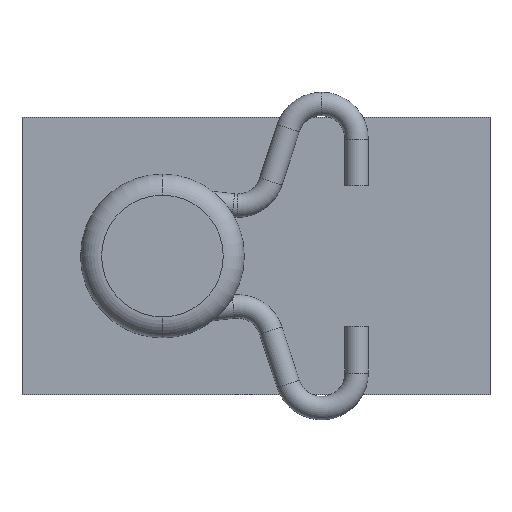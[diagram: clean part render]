
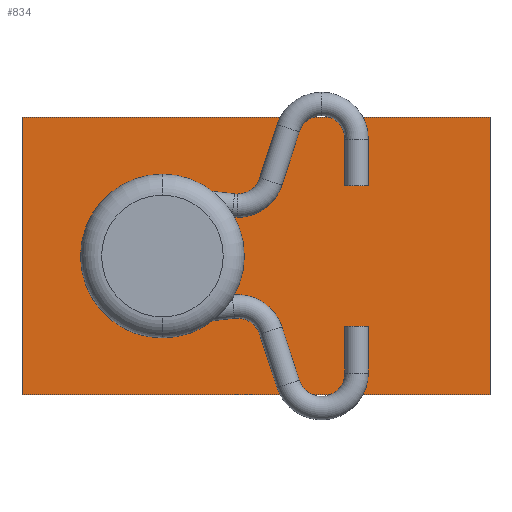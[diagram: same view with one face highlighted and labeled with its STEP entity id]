
A CAD part, front view. The second image highlights one B-rep face of the part: STEP entity #834.
In plain terms, the highlighted planar face has unit normal (0, -1, 0).
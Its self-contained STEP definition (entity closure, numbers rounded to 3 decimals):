
#30 = FACE_OUTER_BOUND ( 'NONE', #838, .T. ) ;
#185 = CARTESIAN_POINT ( 'NONE',  ( 0., -0.5, -5.925 ) ) ;
#236 = CARTESIAN_POINT ( 'NONE',  ( -20., -0.5, 5.925 ) ) ;
#293 = ORIENTED_EDGE ( 'NONE', *, *, #1563, .F. ) ;
#396 = EDGE_CURVE ( 'NONE', #1769, #1996, #2133, .T. ) ;
#401 = VECTOR ( 'NONE', #918, 1000. ) ;
#434 = VERTEX_POINT ( 'NONE', #1429 ) ;
#443 = ORIENTED_EDGE ( 'NONE', *, *, #474, .F. ) ;
#474 = EDGE_CURVE ( 'NONE', #2002, #1769, #684, .T. ) ;
#502 = VECTOR ( 'NONE', #1090, 1000. ) ;
#553 = CARTESIAN_POINT ( 'NONE',  ( 0., -0.5, 0. ) ) ;
#577 = DIRECTION ( 'NONE',  ( 0., 0., 1. ) ) ;
#610 = PLANE ( 'NONE',  #906 ) ;
#613 = DIRECTION ( 'NONE',  ( 0., 0., 1. ) ) ;
#684 = LINE ( 'NONE', #1953, #1982 ) ;
#721 = CARTESIAN_POINT ( 'NONE',  ( 0., -0.5, 5.925 ) ) ;
#751 = DIRECTION ( 'NONE',  ( 0., 1., 0. ) ) ;
#775 = ORIENTED_EDGE ( 'NONE', *, *, #1678, .T. ) ;
#780 = VERTEX_POINT ( 'NONE', #185 ) ;
#834 = ADVANCED_FACE ( 'NONE', ( #1785, #30 ), #610, .F. ) ;
#838 = EDGE_LOOP ( 'NONE', ( #1809, #293, #1656, #443 ) ) ;
#882 = CARTESIAN_POINT ( 'NONE',  ( 0., -0.5, 5.925 ) ) ;
#906 = AXIS2_PLACEMENT_3D ( 'NONE', #553, #1224, #1139 ) ;
#910 = CARTESIAN_POINT ( 'NONE',  ( 0., -0.5, -5.925 ) ) ;
#918 = DIRECTION ( 'NONE',  ( -1., 0., 0. ) ) ;
#934 = CARTESIAN_POINT ( 'NONE',  ( 0., -0.5, 5.925 ) ) ;
#950 = LINE ( 'NONE', #721, #502 ) ;
#1077 = CARTESIAN_POINT ( 'NONE',  ( -14., -0.5, 0. ) ) ;
#1090 = DIRECTION ( 'NONE',  ( 0., 0., -1. ) ) ;
#1139 = DIRECTION ( 'NONE',  ( 0., 0., 1. ) ) ;
#1157 = AXIS2_PLACEMENT_3D ( 'NONE', #1247, #2068, #1415 ) ;
#1176 = ORIENTED_EDGE ( 'NONE', *, *, #1668, .T. ) ;
#1224 = DIRECTION ( 'NONE',  ( 0., 1., 0. ) ) ;
#1248 = DIRECTION ( 'NONE',  ( 1., 0., 0. ) ) ;
#1247 = CARTESIAN_POINT ( 'NONE',  ( -14., -0.5, 0. ) ) ;
#1301 = LINE ( 'NONE', #910, #401 ) ;
#1365 = CARTESIAN_POINT ( 'NONE',  ( -14., -0.5, 1.95 ) ) ;
#1380 = AXIS2_PLACEMENT_3D ( 'NONE', #1077, #751, #577 ) ;
#1415 = DIRECTION ( 'NONE',  ( 0., 0., 1. ) ) ;
#1429 = CARTESIAN_POINT ( 'NONE',  ( -14., -0.5, -1.95 ) ) ;
#1563 = EDGE_CURVE ( 'NONE', #1996, #780, #950, .T. ) ;
#1619 = EDGE_CURVE ( 'NONE', #780, #2002, #1301, .T. ) ;
#1656 = ORIENTED_EDGE ( 'NONE', *, *, #396, .F. ) ;
#1668 = EDGE_CURVE ( 'NONE', #2027, #434, #1688, .T. ) ;
#1678 = EDGE_CURVE ( 'NONE', #434, #2027, #1750, .T. ) ;
#1687 = VECTOR ( 'NONE', #1248, 1000. ) ;
#1688 = CIRCLE ( 'NONE', #1157, 1.95 ) ;
#1713 = CARTESIAN_POINT ( 'NONE',  ( -20., -0.5, -5.925 ) ) ;
#1750 = CIRCLE ( 'NONE', #1380, 1.95 ) ;
#1769 = VERTEX_POINT ( 'NONE', #236 ) ;
#1785 = FACE_BOUND ( 'NONE', #2162, .T. ) ;
#1809 = ORIENTED_EDGE ( 'NONE', *, *, #1619, .F. ) ;
#1953 = CARTESIAN_POINT ( 'NONE',  ( -20., -0.5, -5.925 ) ) ;
#1982 = VECTOR ( 'NONE', #613, 1000. ) ;
#1996 = VERTEX_POINT ( 'NONE', #882 ) ;
#2002 = VERTEX_POINT ( 'NONE', #1713 ) ;
#2027 = VERTEX_POINT ( 'NONE', #1365 ) ;
#2068 = DIRECTION ( 'NONE',  ( 0., 1., 0. ) ) ;
#2133 = LINE ( 'NONE', #934, #1687 ) ;
#2162 = EDGE_LOOP ( 'NONE', ( #1176, #775 ) ) ;
